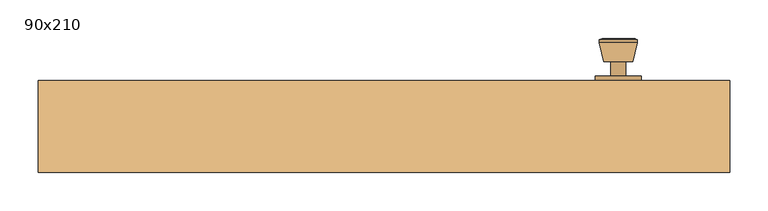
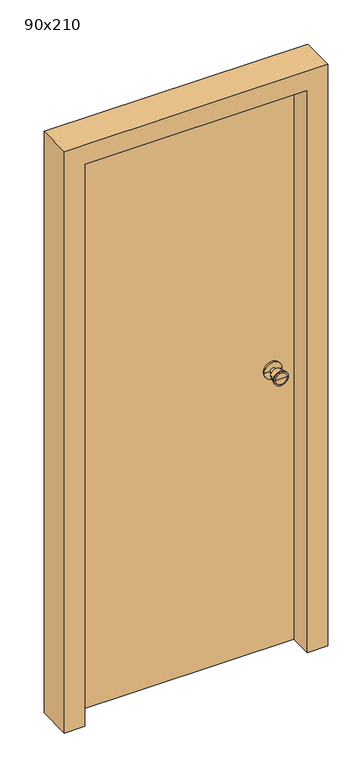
"""IFC4 building model written with IfcOpenShell, lengths in millimetres: door geometry, 門-單開門-矩形 (1) : 90x210."""

from ifc_helpers import new_model, si_unit, frame, origin, origin_with_axes, place, context, project, spatial, polyline, circle_curve, outline, extrude, faceted_brep, source, transform, mapped, element, save
from ifc_brep_helpers import plane_surface, cylinder_surface, revolved_surface, advanced_brep


def door_90x210_62a0c4fc(model_context):
    return source(origin(), model_context, "Body", "SolidModel", [
        advanced_brep(
        [(335.0, 66.0, 1000.0), (335.0, 60.0, 1000.0), (275.0, 60.0, 1000.0), (275.0, 66.0, 1000.0), (315.0, 66.0, 1000.0), (295.0, 66.0, 1000.0), (315.0, 85.0, 1000.0), (295.0, 85.0, 1000.0), (323.6, 85.0, 1000.0), (286.4, 85.0, 1000.0), (330.0, 109.7, 1000.0), (280.0, 109.7, 1000.0), (330.0, 113.2, 1000.0), (280.0, 113.2, 1000.0), (325.5, 115.0, 1000.0), (284.5, 115.0, 1000.0), (305.0, 115.0, 1000.0), (305.0, 60.0, 1000.0)],
        [
            (0, 1),
            (1, 2, circle_curve(frame((305.0, 60.0, 1000.0), z_axis=(0.0, 1.0, 0.0), x_axis=(-1.0, 0.0, 0.0)), 30.0)),
            (2, 3),
            (3, 0, circle_curve(frame((305.0, 66.0, 1000.0), z_axis=(0.0, -1.0, 0.0), x_axis=(-1.0, 0.0, 0.0)), 30.0)),
            (2, 1, circle_curve(frame((305.0, 60.0, 1000.0), z_axis=(0.0, 1.0, 0.0), x_axis=(-1.0, 0.0, 0.0)), 30.0)),
            (0, 3, circle_curve(frame((305.0, 66.0, 1000.0), z_axis=(0.0, -1.0, 0.0), x_axis=(-1.0, 0.0, 0.0)), 30.0)),
            (4, 0),
            (3, 5),
            (5, 4, circle_curve(frame((305.0, 66.0, 1000.0), z_axis=(0.0, -1.0, 0.0), x_axis=(-1.0, 0.0, 0.0)), 10.0)),
            (4, 5, circle_curve(frame((305.0, 66.0, 1000.0), z_axis=(0.0, -1.0, 0.0), x_axis=(-1.0, 0.0, 0.0)), 10.0)),
            (6, 4),
            (5, 7),
            (7, 6, circle_curve(frame((305.0, 85.0, 1000.0), z_axis=(0.0, -1.0, 0.0), x_axis=(-1.0, 0.0, 0.0)), 10.0)),
            (6, 7, circle_curve(frame((305.0, 85.0, 1000.0), z_axis=(0.0, -1.0, 0.0), x_axis=(-1.0, 0.0, 0.0)), 10.0)),
            (8, 6),
            (7, 9),
            (9, 8, circle_curve(frame((305.0, 85.0, 1000.0), z_axis=(0.0, -1.0, 0.0), x_axis=(-1.0, 0.0, 0.0)), 18.6)),
            (8, 9, circle_curve(frame((305.0, 85.0, 1000.0), z_axis=(0.0, -1.0, 0.0), x_axis=(-1.0, 0.0, 0.0)), 18.6)),
            (10, 8),
            (9, 11),
            (11, 10, circle_curve(frame((305.0, 109.7, 1000.0), z_axis=(0.0, -1.0, 0.0), x_axis=(-1.0, 0.0, 0.0)), 25.0)),
            (10, 11, circle_curve(frame((305.0, 109.7, 1000.0), z_axis=(0.0, -1.0, 0.0), x_axis=(-1.0, 0.0, 0.0)), 25.0)),
            (12, 10),
            (11, 13),
            (13, 12, circle_curve(frame((305.0, 113.2, 1000.0), z_axis=(0.0, -1.0, 0.0), x_axis=(-1.0, 0.0, 0.0)), 25.0)),
            (12, 13, circle_curve(frame((305.0, 113.2, 1000.0), z_axis=(0.0, -1.0, 0.0), x_axis=(-1.0, 0.0, 0.0)), 25.0)),
            (14, 12),
            (13, 15),
            (15, 14, circle_curve(frame((305.0, 115.0, 1000.0), z_axis=(0.0, -1.0, 0.0), x_axis=(-1.0, 0.0, 0.0)), 20.5)),
            (14, 15, circle_curve(frame((305.0, 115.0, 1000.0), z_axis=(0.0, -1.0, 0.0), x_axis=(-1.0, 0.0, 0.0)), 20.5)),
            (16, 14),
            (15, 16),
            (1, 17),
            (17, 2),
        ],
        [
            cylinder_surface(frame((305.0, 0.0, 1000.0), z_axis=(0.0, 1.0, 0.0), x_axis=(-1.0, 0.0, 0.0)), 30.0),
            plane_surface(frame((305.0, 66.0, 1000.0), z_axis=(0.0, 1.0, 0.0), x_axis=(-1.0, 0.0, 0.0))),
            cylinder_surface(frame((305.0, 0.0, 1000.0), z_axis=(0.0, 1.0, 0.0), x_axis=(-1.0, 0.0, 0.0)), 10.0),
            plane_surface(frame((305.0, 85.0, 1000.0), z_axis=(0.0, -1.0, 0.0), x_axis=(-1.0, 0.0, 0.0))),
            revolved_surface(polyline([(286.4, 85.0, 1000.0), (280.0, 109.7, 1000.0)]), (305.0, 0.0, 1000.0), (0.0, 1.0, 0.0)),
            cylinder_surface(frame((305.0, 0.0, 1000.0), z_axis=(0.0, 1.0, 0.0), x_axis=(-1.0, 0.0, 0.0)), 25.0),
            revolved_surface(polyline([(280.0, 113.2, 1000.0), (284.5, 115.0, 1000.0)]), (305.0, 0.0, 1000.0), (0.0, 1.0, 0.0)),
            plane_surface(frame((305.0, 115.0, 1000.0), z_axis=(0.0, 1.0, 0.0), x_axis=(-1.0, 0.0, 0.0))),
            plane_surface(frame((305.0, 60.0, 1000.0), z_axis=(0.0, -1.0, 0.0), x_axis=(-1.0, 0.0, 0.0))),
        ],
        [
            (0, [[1, 2, 3, 4]]),
            (0, [[-3, 5, -1, 6]]),
            (1, [[7, -4, 8, 9]]),
            (1, [[-8, -6, -7, 10]]),
            (2, [[11, -9, 12, 13]]),
            (2, [[-12, -10, -11, 14]]),
            (3, [[15, -13, 16, 17]]),
            (3, [[-16, -14, -15, 18]]),
            (4, [[19, -17, 20, 21]]),
            (4, [[-20, -18, -19, 22]]),
            (5, [[23, -21, 24, 25]]),
            (5, [[-24, -22, -23, 26]]),
            (6, [[27, -25, 28, 29]]),
            (6, [[-28, -26, -27, 30]]),
            (7, [[31, -29, 32]]),
            (7, [[-32, -30, -31]]),
            (8, [[33, 34, -2]]),
            (8, [[-34, -33, -5]]),
        ],
    ),
        advanced_brep(
        [(335.0, 14.0, 1000.0), (275.0, 14.0, 1000.0), (275.0, 20.0, 1000.0), (335.0, 20.0, 1000.0), (315.0, 14.0, 1000.0), (295.0, 14.0, 1000.0), (315.0, -5.0, 1000.0), (295.0, -5.0, 1000.0), (323.6, -5.0, 1000.0), (286.4, -5.0, 1000.0), (330.0, -29.7, 1000.0), (280.0, -29.7, 1000.0), (330.0, -33.2, 1000.0), (280.0, -33.2, 1000.0), (325.5, -35.0, 1000.0), (284.5, -35.0, 1000.0), (305.0, -35.0, 1000.0), (305.0, 20.0, 1000.0)],
        [
            (0, 1, circle_curve(frame((305.0, 14.0, 1000.0), z_axis=(0.0, 1.0, 0.0), x_axis=(-1.0, 0.0, 0.0)), 30.0)),
            (1, 2),
            (2, 3, circle_curve(frame((305.0, 20.0, 1000.0), z_axis=(0.0, -1.0, 0.0), x_axis=(-1.0, 0.0, 0.0)), 30.0)),
            (3, 0),
            (1, 0, circle_curve(frame((305.0, 14.0, 1000.0), z_axis=(0.0, 1.0, 0.0), x_axis=(-1.0, 0.0, 0.0)), 30.0)),
            (3, 2, circle_curve(frame((305.0, 20.0, 1000.0), z_axis=(0.0, -1.0, 0.0), x_axis=(-1.0, 0.0, 0.0)), 30.0)),
            (4, 5, circle_curve(frame((305.0, 14.0, 1000.0), z_axis=(0.0, 1.0, 0.0), x_axis=(-1.0, 0.0, 0.0)), 10.0)),
            (5, 1),
            (0, 4),
            (5, 4, circle_curve(frame((305.0, 14.0, 1000.0), z_axis=(0.0, 1.0, 0.0), x_axis=(-1.0, 0.0, 0.0)), 10.0)),
            (6, 7, circle_curve(frame((305.0, -5.0, 1000.0), z_axis=(0.0, 1.0, 0.0), x_axis=(-1.0, 0.0, 0.0)), 10.0)),
            (7, 5),
            (4, 6),
            (7, 6, circle_curve(frame((305.0, -5.0, 1000.0), z_axis=(0.0, 1.0, 0.0), x_axis=(-1.0, 0.0, 0.0)), 10.0)),
            (8, 9, circle_curve(frame((305.0, -5.0, 1000.0), z_axis=(0.0, 1.0, 0.0), x_axis=(-1.0, 0.0, 0.0)), 18.6)),
            (9, 7),
            (6, 8),
            (9, 8, circle_curve(frame((305.0, -5.0, 1000.0), z_axis=(0.0, 1.0, 0.0), x_axis=(-1.0, 0.0, 0.0)), 18.6)),
            (10, 11, circle_curve(frame((305.0, -29.7, 1000.0), z_axis=(0.0, 1.0, 0.0), x_axis=(-1.0, 0.0, 0.0)), 25.0)),
            (11, 9),
            (8, 10),
            (11, 10, circle_curve(frame((305.0, -29.7, 1000.0), z_axis=(0.0, 1.0, 0.0), x_axis=(-1.0, 0.0, 0.0)), 25.0)),
            (12, 13, circle_curve(frame((305.0, -33.2, 1000.0), z_axis=(0.0, 1.0, 0.0), x_axis=(-1.0, 0.0, 0.0)), 25.0)),
            (13, 11),
            (10, 12),
            (13, 12, circle_curve(frame((305.0, -33.2, 1000.0), z_axis=(0.0, 1.0, 0.0), x_axis=(-1.0, 0.0, 0.0)), 25.0)),
            (14, 15, circle_curve(frame((305.0, -35.0, 1000.0), z_axis=(0.0, 1.0, 0.0), x_axis=(-1.0, 0.0, 0.0)), 20.5)),
            (15, 13),
            (12, 14),
            (15, 14, circle_curve(frame((305.0, -35.0, 1000.0), z_axis=(0.0, 1.0, 0.0), x_axis=(-1.0, 0.0, 0.0)), 20.5)),
            (16, 15),
            (14, 16),
            (2, 17),
            (17, 3),
        ],
        [
            cylinder_surface(frame((305.0, 80.0, 1000.0), z_axis=(0.0, -1.0, 0.0), x_axis=(-1.0, 0.0, 0.0)), 30.0),
            plane_surface(frame((305.0, 14.0, 1000.0), z_axis=(0.0, -1.0, 0.0), x_axis=(-1.0, 0.0, 0.0))),
            cylinder_surface(frame((305.0, 80.0, 1000.0), z_axis=(0.0, -1.0, 0.0), x_axis=(-1.0, 0.0, 0.0)), 10.0),
            plane_surface(frame((305.0, -5.0, 1000.0), z_axis=(0.0, 1.0, 0.0), x_axis=(-1.0, 0.0, 0.0))),
            revolved_surface(polyline([(286.4, -5.0, 1000.0), (280.0, -29.7, 1000.0)]), (305.0, 80.0, 1000.0), (0.0, -1.0, 0.0)),
            cylinder_surface(frame((305.0, 80.0, 1000.0), z_axis=(0.0, -1.0, 0.0), x_axis=(-1.0, 0.0, 0.0)), 25.0),
            revolved_surface(polyline([(280.0, -33.2, 1000.0), (284.5, -35.0, 1000.0)]), (305.0, 80.0, 1000.0), (0.0, -1.0, 0.0)),
            plane_surface(frame((305.0, -35.0, 1000.0), z_axis=(0.0, -1.0, 0.0), x_axis=(-1.0, 0.0, 0.0))),
            plane_surface(frame((305.0, 20.0, 1000.0), z_axis=(0.0, 1.0, 0.0), x_axis=(-1.0, 0.0, 0.0))),
        ],
        [
            (0, [[1, 2, 3, 4]]),
            (0, [[5, -4, 6, -2]]),
            (1, [[7, 8, -1, 9]]),
            (1, [[10, -9, -5, -8]]),
            (2, [[11, 12, -7, 13]]),
            (2, [[14, -13, -10, -12]]),
            (3, [[15, 16, -11, 17]]),
            (3, [[18, -17, -14, -16]]),
            (4, [[19, 20, -15, 21]]),
            (4, [[22, -21, -18, -20]]),
            (5, [[23, 24, -19, 25]]),
            (5, [[26, -25, -22, -24]]),
            (6, [[27, 28, -23, 29]]),
            (6, [[30, -29, -26, -28]]),
            (7, [[31, -27, 32]]),
            (7, [[-32, -30, -31]]),
            (8, [[-3, 33, 34]]),
            (8, [[-6, -34, -33]]),
        ],
    ),
        extrude(outline(polyline([(-400.0, 60.0), (400.0, 60.0), (400.0, 20.0), (-400.0, 20.0), (-400.0, 60.0)])), origin_with_axes(), (0.0, 0.0, 1.0), 2050.0),
        faceted_brep([(400.0, 60.0, 0.0), (450.0, 60.0, 0.0), (450.0, -60.0, 0.0), (380.0, -60.0, 0.0), (380.0, 20.0, 0.0), (400.0, 20.0, 0.0), (400.0, 60.0, 2050.0), (-400.0, 60.0, 2050.0), (-400.0, 60.0, 0.0), (-450.0, 60.0, 0.0), (-450.0, 60.0, 2100.0), (450.0, 60.0, 2100.0), (450.0, -60.0, 2100.0), (-450.0, -60.0, 2100.0), (-450.0, -60.0, 0.0), (-380.0, -60.0, 0.0), (-380.0, -60.0, 2030.0), (380.0, -60.0, 2030.0), (380.0, 20.0, 2030.0), (-380.0, 20.0, 2030.0), (-380.0, 20.0, 0.0), (-400.0, 20.0, 0.0), (-400.0, 20.0, 2050.0), (400.0, 20.0, 2050.0)], [[[0, 1, 2, 3, 4, 5]], [[1, 0, 6, 7, 8, 9, 10, 11]], [[2, 1, 11, 12]], [[3, 2, 12, 13, 14, 15, 16, 17]], [[4, 3, 17, 18]], [[5, 4, 18, 19, 20, 21, 22, 23]], [[0, 5, 23, 6]], [[12, 11, 10, 13]], [[18, 17, 16, 19]], [[6, 23, 22, 7]], [[8, 21, 20, 15, 14, 9]], [[13, 10, 9, 14]], [[19, 16, 15, 20]], [[7, 22, 21, 8]]]),
    ])


if __name__ == "__main__":
    model = new_model("IFC4")
    model_context = context("Model", 3, world=origin())
    ifc_project = project(units=[si_unit("LENGTHUNIT", "METRE", prefix="MILLI")], contexts=[model_context])
    site = spatial("IfcSite", under=ifc_project)
    building = spatial("IfcBuilding", under=site)
    placement = place(None, origin())
    door_90x210_shape = door_90x210_62a0c4fc(model_context)
    element("IfcDoor", 1, ObjectType="門-單開門-矩形 (1) : 90x210", at=placement, inside=building, context=model_context, shape_type="MappedRepresentation", body=[
        mapped(door_90x210_shape, transform((0.0, 0.0, 0.0), x_axis=(1.0, 0.0, 0.0), y_axis=(0.0, 1.0, 0.0), z_axis=(0.0, 0.0, 1.0))),
    ])
    save(model, "model.ifc")
